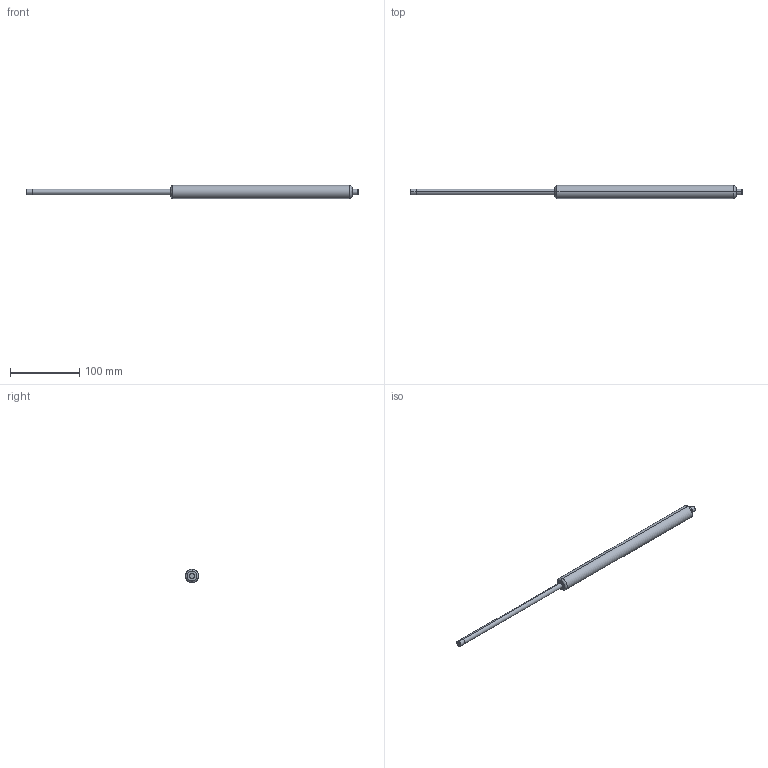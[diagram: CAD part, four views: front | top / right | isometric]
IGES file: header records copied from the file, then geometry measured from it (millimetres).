
Start section: SolidWorks IGES file using analytic representation for surfaces
Bounding box: 481 x 19 x 19 mm (x, y, z)
Surface area: 21583.9 mm2 (no closed solid volume)
Topology: 0 solids, 0 shells, 25 faces, 336 edges, 336 vertices
Faces by surface type: revolution 16, bspline 9
